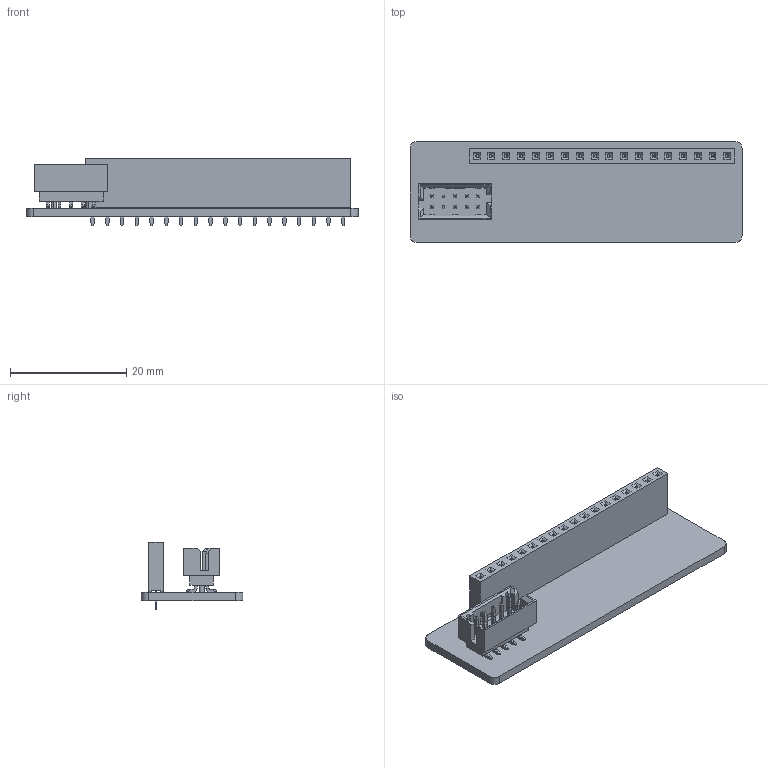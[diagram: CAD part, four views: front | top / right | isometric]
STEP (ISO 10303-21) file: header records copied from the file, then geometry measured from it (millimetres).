
FILE_DESCRIPTION(('KiCad electronic assembly'),'2;1');
FILE_NAME('NX-ButtonInterface.step','2025-10-19T10:06:09',('Pcbnew'),( 'Kicad'),'Open CASCADE STEP processor 7.6','KiCad to STEP converter' ,'Unknown');
FILE_SCHEMA(('AUTOMOTIVE_DESIGN { 1 0 10303 214 1 1 1 1 }'));
Length unit declared in the file: millimetre
Products named in the file (6): NX-ButtonInterface 1; PinSocket_1x18_P2.54mm_Vertical; Molex-0878321010; SOLID; COMPOUND; NX-ButtonInterface_PCB
Assembly tree (5 placements, depth 3):
  NX-ButtonInterface 1
    PinSocket_1x18_P2.54mm_Vertical
    Molex-0878321010
      SOLID
      COMPOUND
    NX-ButtonInterface_PCB
Bounding box: 57.2 x 17.48 x 11.6 mm (x, y, z)
Volume: 2629.3 mm3; surface area: 4407.9 mm2
Topology: 3 solids, 3 shells, 810 faces, 2123 edges, 1422 vertices
Faces by surface type: plane 758, cylinder 48, cone 4
Full cylindrical faces by diameter (mm): 1 x20
Entity records: 24470 total; most frequent: CARTESIAN_POINT 4361, ORIENTED_EDGE 4154, DIRECTION 3859, EDGE_CURVE 2077, LINE 2019, VECTOR 2019, VERTEX_POINT 1330, AXIS2_PLACEMENT_3D 920
